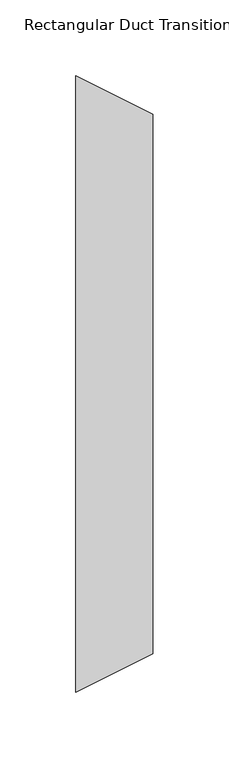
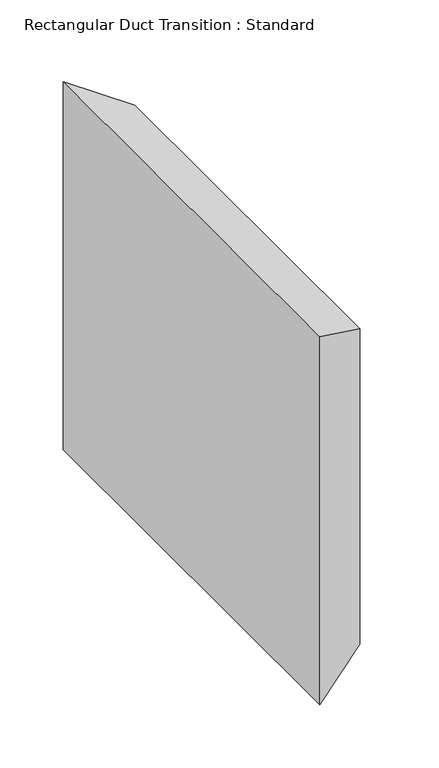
"""IFC4 building model written with IfcOpenShell, lengths in millimetres: duct fitting geometry, Rectangular Duct Transition : Standard."""

from ifc_helpers import new_model, si_unit, origin, place, context, project, spatial, faceted_brep, source, transform, mapped, element, save


def rectangular_duct_transition_standard_857d146e(model_context):
    return source(origin(), model_context, "Body", "Brep", [
        faceted_brep([(50.8, -177.8, 152.4), (50.8, -177.8, -152.4), (50.8, 177.8, -152.4), (50.8, 177.8, 152.4), (0.0, -203.2, 177.8), (0.0, 203.2, 177.8), (0.0, 203.2, -177.8), (0.0, -203.2, -177.8)], [[[0, 1, 2, 3]], [[4, 5, 6, 7]], [[4, 7, 1, 0]], [[7, 6, 2, 1]], [[6, 5, 3, 2]], [[5, 4, 0, 3]]]),
        faceted_brep([(50.8, -177.8, 152.4), (50.8, -177.8, -152.4), (50.8, 177.8, -152.4), (50.8, 177.8, 152.4), (0.0, -203.2, 177.8), (0.0, 203.2, 177.8), (0.0, 203.2, -177.8), (0.0, -203.2, -177.8)], [[[0, 1, 2, 3]], [[4, 5, 6, 7]], [[4, 7, 1, 0]], [[7, 6, 2, 1]], [[6, 5, 3, 2]], [[5, 4, 0, 3]]]),
        faceted_brep([(50.8, -177.8, 152.4), (50.8, -177.8, -152.4), (50.8, 177.8, -152.4), (50.8, 177.8, 152.4), (0.0, -203.2, 177.8), (0.0, 203.2, 177.8), (0.0, 203.2, -177.8), (0.0, -203.2, -177.8)], [[[0, 1, 2, 3]], [[4, 5, 6, 7]], [[4, 7, 1, 0]], [[7, 6, 2, 1]], [[6, 5, 3, 2]], [[5, 4, 0, 3]]]),
    ])


if __name__ == "__main__":
    model = new_model("IFC4")
    model_context = context("Model", 3, world=origin())
    ifc_project = project(units=[si_unit("LENGTHUNIT", "METRE", prefix="MILLI")], contexts=[model_context])
    site = spatial("IfcSite", under=ifc_project)
    building = spatial("IfcBuilding", under=site)
    placement = place(None, origin())
    rectangular_duct_transition_standard_shape = rectangular_duct_transition_standard_857d146e(model_context)
    element("IfcDuctFitting", 1, ObjectType="Rectangular Duct Transition : Standard", at=placement, inside=building, context=model_context, shape_type="MappedRepresentation", body=[
        mapped(rectangular_duct_transition_standard_shape, transform((0.0, 0.0, 0.0), x_axis=(1.0, 0.0, 0.0), y_axis=(0.0, 1.0, 0.0), z_axis=(0.0, 0.0, 1.0))),
    ])
    save(model, "model.ifc")
